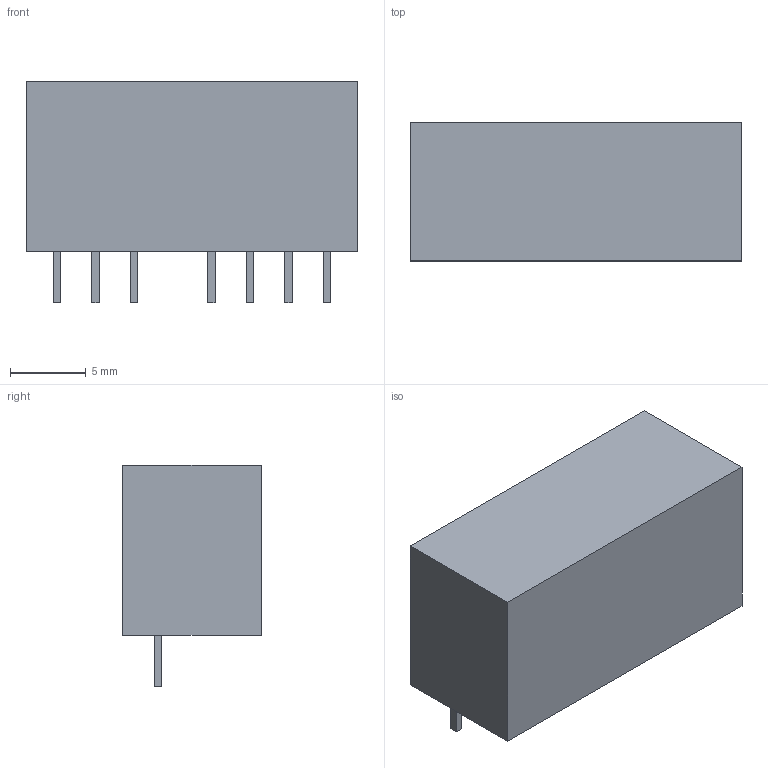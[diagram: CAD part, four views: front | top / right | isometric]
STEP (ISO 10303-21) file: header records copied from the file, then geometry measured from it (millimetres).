
FILE_DESCRIPTION(('FreeCAD Model'),'2;1');
FILE_NAME('Open CASCADE Shape Model','2026-10-15T00:26:04',('FreeCAD'),( 'FreeCAD'),'Open CASCADE STEP processor 7.8','FreeCAD','Unknown');
FILE_SCHEMA(('AUTOMOTIVE_DESIGN { 1 0 10303 214 1 1 1 1 }'));
Length unit declared in the file: millimetre
Products named in the file (1): Open CASCADE STEP translator 7.8 6
Bounding box: 21.8 x 9.1 x 14.6 mm (x, y, z)
Volume: 2227.8 mm3; surface area: 1140 mm2
Topology: 8 solids, 8 shells, 48 faces, 96 edges, 64 vertices
Faces by surface type: plane 48
Entity records: 1216 total; most frequent: CARTESIAN_POINT 209, DIRECTION 194, ORIENTED_EDGE 192, EDGE_CURVE 96, LINE 96, VECTOR 96, VERTEX_POINT 64, AXIS2_PLACEMENT_3D 49
